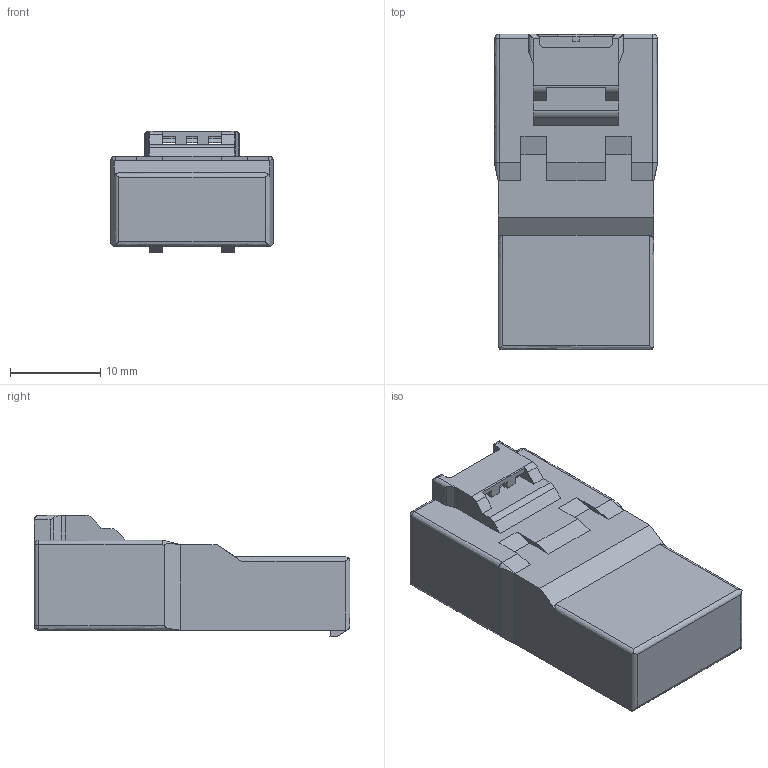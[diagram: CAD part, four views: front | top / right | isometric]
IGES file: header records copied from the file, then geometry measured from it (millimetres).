
Start section: Elysium IGES Interface
Global section: file name: E:\3D\攡尨庡擟\搊榐嘐\DF22A-2EP-7.92C.igs,      ; native system: CoCreate Modeling 17.0  01-Apr-2010; preprocessor: CoCreate IGES_3D V2.2; author: Unknown; organization: Unknown; date: 20110323.085337; units: millimetre
Bounding box: 18 x 34.95 x 13.42 mm (x, y, z)
Surface area: 2424.7 mm2 (no closed solid volume)
Topology: 0 solids, 0 shells, 129 faces, 756 edges, 752 vertices
Faces by surface type: plane 92, bspline 37
